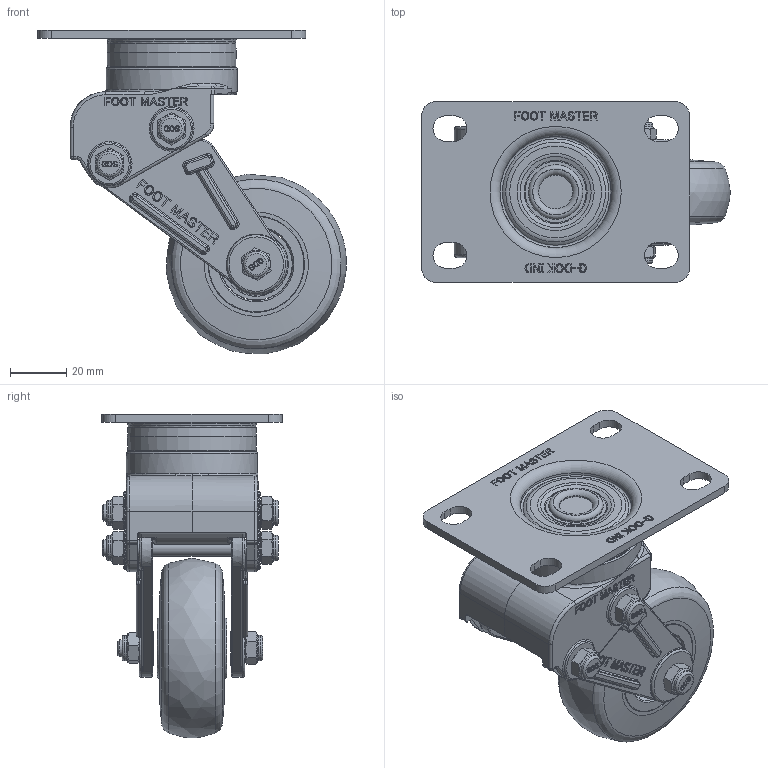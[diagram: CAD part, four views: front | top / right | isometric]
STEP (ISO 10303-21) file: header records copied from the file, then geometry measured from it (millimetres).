
FILE_DESCRIPTION(/* description */ (''),/* implementation_level */ '2;1');
FILE_NAME(/* name */ 'C:\Users\admin\Desktop\JYS\개발품\상세설계_20220328\홈페이지용 도면\GDS-65-ASF-EUS-PUS.stp',/* time_stamp */ '2023-03-08T15:53:41+09:00',/* author */ ('admin'),/* organization */ (''),/* preprocessor_version */ 'ST-DEVELOPER v18.1',/* originating_system */ 'Autodesk Inventor 2021',/* authorisation */ '');
FILE_SCHEMA (('AUTOMOTIVE_DESIGN { 1 0 10303 214 3 1 1 }'));
Products named in the file (1): GDS-65_ASF_(US)_REV01_Shrinkwrap_1
Bounding box: 109.45 x 64 x 114.87 mm (x, y, z)
Volume: 158778.6 mm3; surface area: 55834.1 mm2
Topology: 1 solids, 1 shells, 1996 faces, 5253 edges, 3379 vertices
Faces by surface type: plane 776, bspline 658, cylinder 268, cone 155, torus 123, sphere 16
Full cylindrical faces by diameter (mm): 6 x5, 8.8 x3, 9 x6, 12 x1, 17.216 x2, 18 x1, 19.3 x1, 20 x2, 22 x2, 22.784 x2, 30 x1, 42.5 x1, 46.5 x1
Entity records: 69073 total; most frequent: CARTESIAN_POINT 21776, ORIENTED_EDGE 10482, DIRECTION 7624, EDGE_CURVE 5241, VERTEX_POINT 3379, LINE 2556, VECTOR 2556, AXIS2_PLACEMENT_3D 2534
